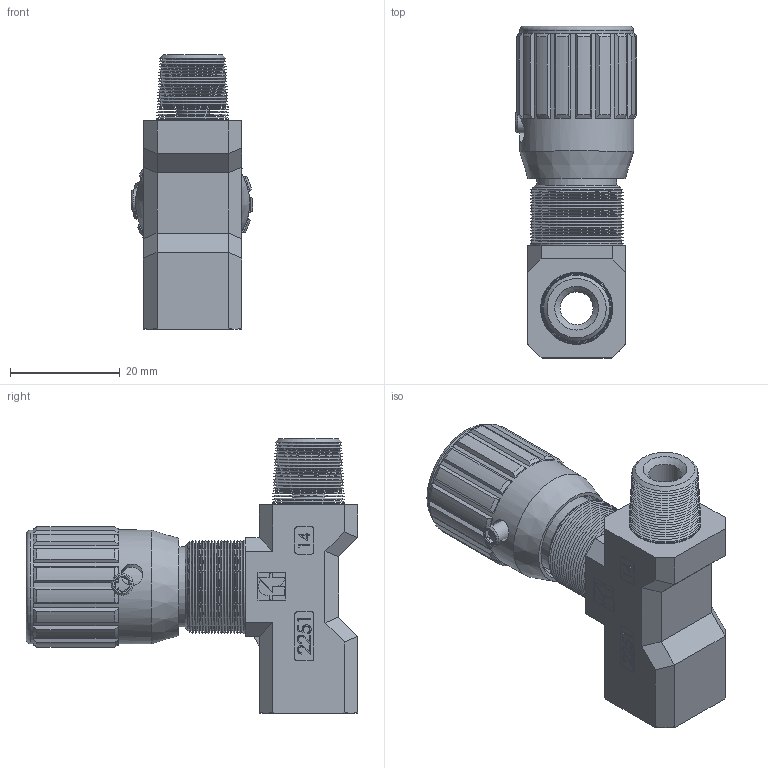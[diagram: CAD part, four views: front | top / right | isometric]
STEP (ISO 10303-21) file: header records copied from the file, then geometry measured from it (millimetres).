
FILE_DESCRIPTION (( 'STEP AP214' ), '1' );
FILE_NAME ('FT2251-2-14 - MF.STEP', '2015-04-16T12:37:27', ( 'cperuzzotti' ), ( 'Hewlett-Packard Company' ), 'SwSTEP 2.0', 'SolidWorks 2014', '' );
FILE_SCHEMA (( 'AUTOMOTIVE_DESIGN' ));
Length unit declared in the file: millimetre
Products named in the file (1): FT2251-2-14 - MF
Bounding box: 22.23 x 60.5 x 50 mm (x, y, z)
Surface area: 9661 mm2 (no closed solid volume)
Topology: 0 solids, 34 shells, 498 faces, 1729 edges, 1206 vertices
Faces by surface type: plane 268, cone 152, cylinder 52, bspline 25, torus 1
Full cylindrical faces by diameter (mm): 4 x2, 6 x1, 12.5 x1, 14.6 x1, 17 x1, 20.7 x1, 20.8 x1
Entity records: 25099 total; most frequent: CARTESIAN_POINT 5734, DIRECTION 2716, ORIENTED_EDGE 2557, EDGE_CURVE 1578, VERTEX_POINT 1174, LINE 1052, VECTOR 1052, AXIS2_PLACEMENT_3D 832
